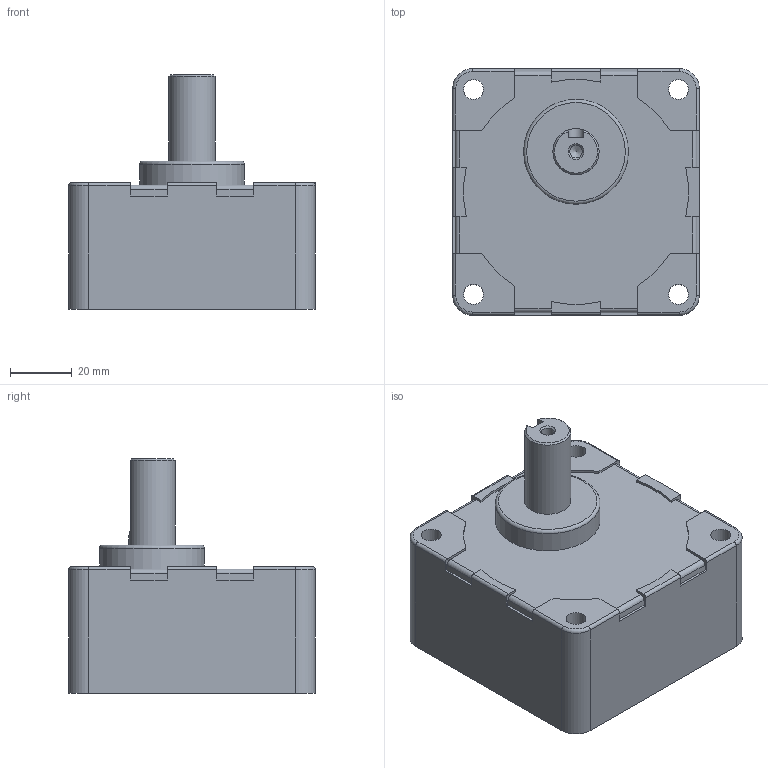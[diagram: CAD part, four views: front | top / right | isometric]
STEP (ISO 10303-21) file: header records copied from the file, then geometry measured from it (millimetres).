
FILE_DESCRIPTION(/* description */ (''),/* implementation_level */ '2;1');
FILE_NAME(/* name */ 'Y:\제품연구개발\3. 도면\3. 고객배포용\3D_홈페이지용\01-1 Standard AC SG Series\0704) 미주향 SG 도면\3D GEAR HEAD\SG8KA5~25.stp',/* time_stamp */ '2023-11-23T11:02:11+09:00',/* author */ ('shyi1037'),/* organization */ (''),/* preprocessor_version */ 'ST-DEVELOPER v18.1',/* originating_system */ 'Autodesk Inventor 2022',/* authorisation */ '');
FILE_SCHEMA (('AUTOMOTIVE_DESIGN { 1 0 10303 214 3 1 1 }'));
Length unit declared in the file: millimetre
Products named in the file (1): SG8KA5~25
Bounding box: 80 x 80 x 76 mm (x, y, z)
Volume: 252226.6 mm3; surface area: 31716.6 mm2
Topology: 1 solids, 1 shells, 104 faces, 284 edges, 186 vertices
Faces by surface type: plane 53, cylinder 41, cone 5, torus 5
Full cylindrical faces by diameter (mm): 4.134 x1, 6.5 x4, 7.5 x1, 15 x1, 34 x1, 73 x1
Entity records: 3366 total; most frequent: CARTESIAN_POINT 596, DIRECTION 583, ORIENTED_EDGE 566, EDGE_CURVE 283, AXIS2_PLACEMENT_3D 199, VERTEX_POINT 186, LINE 185, VECTOR 185
